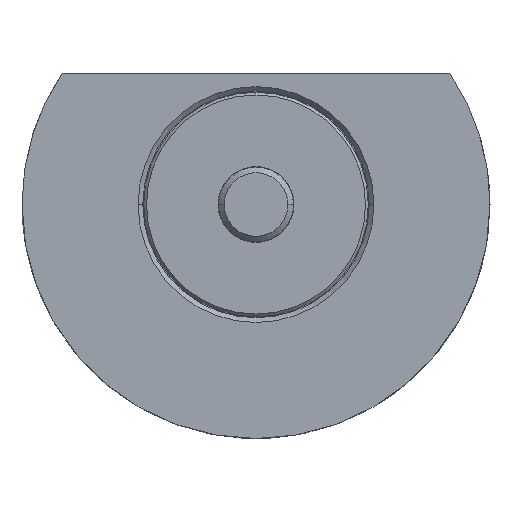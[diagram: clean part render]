
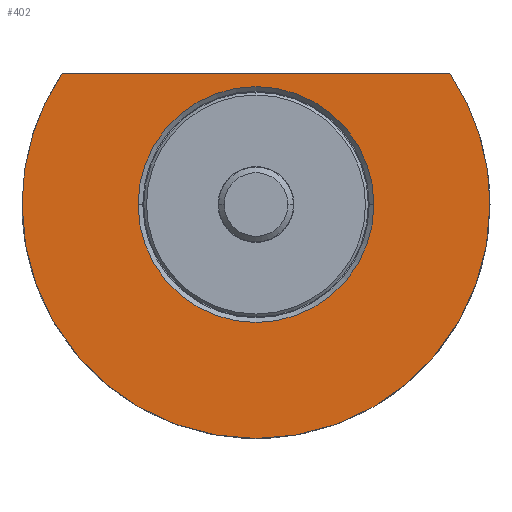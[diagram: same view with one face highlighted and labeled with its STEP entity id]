
A CAD part, front view. The second image highlights one B-rep face of the part: STEP entity #402.
In plain terms, the highlighted planar face has unit normal (0, -1, 0).
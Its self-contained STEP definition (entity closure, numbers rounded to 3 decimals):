
#6 = CARTESIAN_POINT ( 'NONE',  ( 0., -12., 0. ) ) ;
#152 = PLANE ( 'NONE',  #426 ) ;
#181 = AXIS2_PLACEMENT_3D ( 'NONE', #883, #1071, #2465 ) ;
#222 = DIRECTION ( 'NONE',  ( -1., 0., 0. ) ) ;
#322 = DIRECTION ( 'NONE',  ( 1., 0., 0. ) ) ;
#332 = CARTESIAN_POINT ( 'NONE',  ( -12.6, -12., 0. ) ) ;
#402 = ADVANCED_FACE ( 'NONE', ( #927, #1868 ), #152, .T. ) ;
#426 = AXIS2_PLACEMENT_3D ( 'NONE', #2289, #2301, #322 ) ;
#449 = DIRECTION ( 'NONE',  ( 0., 1., 0. ) ) ;
#474 = DIRECTION ( 'NONE',  ( -1., 0., 0. ) ) ;
#505 = CIRCLE ( 'NONE', #1660, 25. ) ;
#570 = EDGE_CURVE ( 'NONE', #911, #2256, #1904, .T. ) ;
#629 = DIRECTION ( 'NONE',  ( -1., 0., 0. ) ) ;
#632 = CARTESIAN_POINT ( 'NONE',  ( 0., -12., 0. ) ) ;
#646 = EDGE_CURVE ( 'NONE', #1908, #911, #2410, .T. ) ;
#666 = CARTESIAN_POINT ( 'NONE',  ( 20.712, -12., 14. ) ) ;
#669 = EDGE_CURVE ( 'NONE', #2311, #1908, #505, .T. ) ;
#765 = VERTEX_POINT ( 'NONE', #332 ) ;
#780 = EDGE_CURVE ( 'NONE', #1167, #765, #2158, .T. ) ;
#883 = CARTESIAN_POINT ( 'NONE',  ( 0., -12., 0. ) ) ;
#911 = VERTEX_POINT ( 'NONE', #2135 ) ;
#927 = FACE_BOUND ( 'NONE', #2253, .T. ) ;
#1043 = CARTESIAN_POINT ( 'NONE',  ( -20.712, -12., 14. ) ) ;
#1056 = CARTESIAN_POINT ( 'NONE',  ( 0., -12., 0. ) ) ;
#1071 = DIRECTION ( 'NONE',  ( 0., 1., 0. ) ) ;
#1072 = AXIS2_PLACEMENT_3D ( 'NONE', #1056, #1461, #474 ) ;
#1151 = ORIENTED_EDGE ( 'NONE', *, *, #669, .F. ) ;
#1167 = VERTEX_POINT ( 'NONE', #1873 ) ;
#1203 = DIRECTION ( 'NONE',  ( 0., 1., 0. ) ) ;
#1351 = DIRECTION ( 'NONE',  ( -1., 0., 0. ) ) ;
#1365 = CIRCLE ( 'NONE', #1072, 12.6 ) ;
#1461 = DIRECTION ( 'NONE',  ( 0., 1., 0. ) ) ;
#1471 = ORIENTED_EDGE ( 'NONE', *, *, #780, .T. ) ;
#1648 = LINE ( 'NONE', #2008, #1768 ) ;
#1660 = AXIS2_PLACEMENT_3D ( 'NONE', #632, #1203, #1826 ) ;
#1768 = VECTOR ( 'NONE', #629, 1000. ) ;
#1803 = CARTESIAN_POINT ( 'NONE',  ( 0., -12., 0. ) ) ;
#1826 = DIRECTION ( 'NONE',  ( -1., 0., 0. ) ) ;
#1868 = FACE_OUTER_BOUND ( 'NONE', #2399, .T. ) ;
#1873 = CARTESIAN_POINT ( 'NONE',  ( 12.6, -12., 0. ) ) ;
#1904 = CIRCLE ( 'NONE', #2072, 25. ) ;
#1908 = VERTEX_POINT ( 'NONE', #2381 ) ;
#1916 = ORIENTED_EDGE ( 'NONE', *, *, #646, .F. ) ;
#1958 = ORIENTED_EDGE ( 'NONE', *, *, #2280, .T. ) ;
#2008 = CARTESIAN_POINT ( 'NONE',  ( -12.6, -12., 14. ) ) ;
#2027 = AXIS2_PLACEMENT_3D ( 'NONE', #1803, #449, #222 ) ;
#2072 = AXIS2_PLACEMENT_3D ( 'NONE', #6, #2332, #1351 ) ;
#2135 = CARTESIAN_POINT ( 'NONE',  ( -25., -12., 0. ) ) ;
#2158 = CIRCLE ( 'NONE', #181, 12.6 ) ;
#2253 = EDGE_LOOP ( 'NONE', ( #1471, #2281 ) ) ;
#2256 = VERTEX_POINT ( 'NONE', #1043 ) ;
#2280 = EDGE_CURVE ( 'NONE', #2311, #2256, #1648, .T. ) ;
#2281 = ORIENTED_EDGE ( 'NONE', *, *, #2357, .T. ) ;
#2289 = CARTESIAN_POINT ( 'NONE',  ( -12.6, -12., 0. ) ) ;
#2301 = DIRECTION ( 'NONE',  ( 0., -1., 0. ) ) ;
#2311 = VERTEX_POINT ( 'NONE', #666 ) ;
#2332 = DIRECTION ( 'NONE',  ( 0., 1., 0. ) ) ;
#2357 = EDGE_CURVE ( 'NONE', #765, #1167, #1365, .T. ) ;
#2381 = CARTESIAN_POINT ( 'NONE',  ( 25., -12., 0. ) ) ;
#2399 = EDGE_LOOP ( 'NONE', ( #1151, #1958, #2455, #1916 ) ) ;
#2410 = CIRCLE ( 'NONE', #2027, 25. ) ;
#2455 = ORIENTED_EDGE ( 'NONE', *, *, #570, .F. ) ;
#2465 = DIRECTION ( 'NONE',  ( -1., 0., 0. ) ) ;
